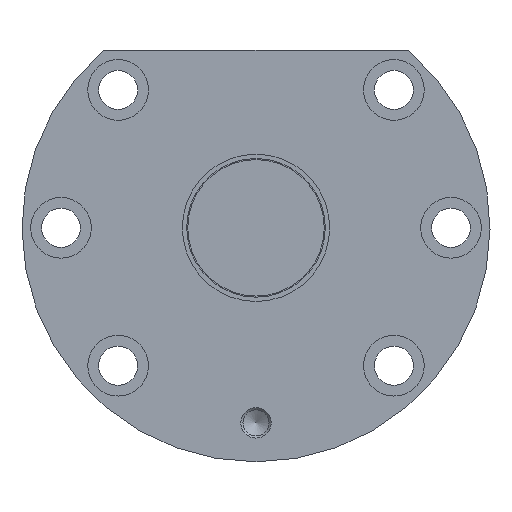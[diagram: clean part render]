
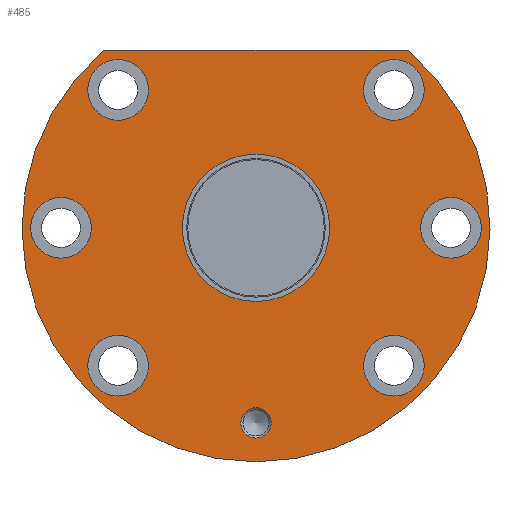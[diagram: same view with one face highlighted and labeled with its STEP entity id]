
A CAD part, left-side view. The second image highlights one B-rep face of the part: STEP entity #485.
In plain terms, the highlighted planar face has unit normal (-1, 0, 0).
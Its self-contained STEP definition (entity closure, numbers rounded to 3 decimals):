
#349=CARTESIAN_POINT('',(461.355,3.5,-45.0));
#350=VERTEX_POINT('',#349);
#351=CARTESIAN_POINT('',(461.355,0.,-45.0));
#352=DIRECTION('',(-1.0,0.0,0.0));
#353=DIRECTION('',(0.0,-1.0,0.0));
#354=AXIS2_PLACEMENT_3D('',#351,#352,#353);
#355=CIRCLE('',#354,3.5);
#356=EDGE_CURVE('',#350,#350,#355,.T.);
#381=CARTESIAN_POINT('',(461.355,27.,0.0));
#382=DIRECTION('',(-1.0,0.0,0.0));
#383=DIRECTION('',(0.0,0.0,1.0));
#384=AXIS2_PLACEMENT_3D('',#381,#382,#383);
#385=PLANE('',#384);
#386=CARTESIAN_POINT('',(461.355,35.143,41.));
#387=VERTEX_POINT('',#386);
#388=CARTESIAN_POINT('',(461.355,-35.143,41.));
#389=VERTEX_POINT('',#388);
#390=CARTESIAN_POINT('',(461.355,35.143,41.));
#391=DIRECTION('',(0.0,-1.0,0.0));
#392=VECTOR('',#391,70.285);
#393=LINE('',#390,#392);
#394=EDGE_CURVE('',#387,#389,#393,.T.);
#395=ORIENTED_EDGE('',*,*,#394,.F.);
#396=CARTESIAN_POINT('',(461.355,0.,0.0));
#397=DIRECTION('',(1.0,0.0,0.0));
#398=DIRECTION('',(0.0,1.0,0.0));
#399=AXIS2_PLACEMENT_3D('',#396,#397,#398);
#400=CIRCLE('',#399,54.0);
#401=EDGE_CURVE('',#389,#387,#400,.T.);
#402=ORIENTED_EDGE('',*,*,#401,.F.);
#403=EDGE_LOOP('',(#395,#402));
#404=FACE_OUTER_BOUND('',#403,.T.);
#405=CARTESIAN_POINT('',(461.355,17.,0.0));
#406=VERTEX_POINT('',#405);
#407=CARTESIAN_POINT('',(461.355,0.,0.0));
#408=DIRECTION('',(1.0,0.0,0.0));
#409=DIRECTION('',(0.0,1.0,0.0));
#410=AXIS2_PLACEMENT_3D('',#407,#408,#409);
#411=CIRCLE('',#410,17.);
#412=EDGE_CURVE('',#406,#406,#411,.T.);
#413=ORIENTED_EDGE('',*,*,#412,.T.);
#414=EDGE_LOOP('',(#413));
#415=FACE_BOUND('',#414,.T.);
#416=CARTESIAN_POINT('',(461.355,38.82,31.82));
#417=VERTEX_POINT('',#416);
#418=CARTESIAN_POINT('',(461.355,31.82,31.82));
#419=DIRECTION('',(1.0,0.0,0.0));
#420=DIRECTION('',(0.0,1.0,0.0));
#421=AXIS2_PLACEMENT_3D('',#418,#419,#420);
#422=CIRCLE('',#421,7.);
#423=EDGE_CURVE('',#417,#417,#422,.T.);
#424=ORIENTED_EDGE('',*,*,#423,.T.);
#425=EDGE_LOOP('',(#424));
#426=FACE_BOUND('',#425,.T.);
#427=CARTESIAN_POINT('',(461.355,38.82,-31.82));
#428=VERTEX_POINT('',#427);
#429=CARTESIAN_POINT('',(461.355,31.82,-31.82));
#430=DIRECTION('',(1.0,0.0,0.0));
#431=DIRECTION('',(0.0,1.0,0.0));
#432=AXIS2_PLACEMENT_3D('',#429,#430,#431);
#433=CIRCLE('',#432,7.);
#434=EDGE_CURVE('',#428,#428,#433,.T.);
#435=ORIENTED_EDGE('',*,*,#434,.T.);
#436=EDGE_LOOP('',(#435));
#437=FACE_BOUND('',#436,.T.);
#438=CARTESIAN_POINT('',(461.355,-38.0,0.0));
#439=VERTEX_POINT('',#438);
#440=CARTESIAN_POINT('',(461.355,-45.0,0.0));
#441=DIRECTION('',(1.0,0.0,0.0));
#442=DIRECTION('',(0.0,1.0,0.0));
#443=AXIS2_PLACEMENT_3D('',#440,#441,#442);
#444=CIRCLE('',#443,7.);
#445=EDGE_CURVE('',#439,#439,#444,.T.);
#446=ORIENTED_EDGE('',*,*,#445,.T.);
#447=EDGE_LOOP('',(#446));
#448=FACE_BOUND('',#447,.T.);
#449=CARTESIAN_POINT('',(461.355,-24.82,31.82));
#450=VERTEX_POINT('',#449);
#451=CARTESIAN_POINT('',(461.355,-31.82,31.82));
#452=DIRECTION('',(1.0,0.0,0.0));
#453=DIRECTION('',(0.0,1.0,0.0));
#454=AXIS2_PLACEMENT_3D('',#451,#452,#453);
#455=CIRCLE('',#454,7.);
#456=EDGE_CURVE('',#450,#450,#455,.T.);
#457=ORIENTED_EDGE('',*,*,#456,.T.);
#458=EDGE_LOOP('',(#457));
#459=FACE_BOUND('',#458,.T.);
#460=CARTESIAN_POINT('',(461.355,-24.82,-31.82));
#461=VERTEX_POINT('',#460);
#462=CARTESIAN_POINT('',(461.355,-31.82,-31.82));
#463=DIRECTION('',(1.0,0.0,0.0));
#464=DIRECTION('',(0.0,1.0,0.0));
#465=AXIS2_PLACEMENT_3D('',#462,#463,#464);
#466=CIRCLE('',#465,7.);
#467=EDGE_CURVE('',#461,#461,#466,.T.);
#468=ORIENTED_EDGE('',*,*,#467,.T.);
#469=EDGE_LOOP('',(#468));
#470=FACE_BOUND('',#469,.T.);
#471=CARTESIAN_POINT('',(461.355,52.0,0.0));
#472=VERTEX_POINT('',#471);
#473=CARTESIAN_POINT('',(461.355,45.0,0.0));
#474=DIRECTION('',(1.0,0.0,0.0));
#475=DIRECTION('',(0.0,1.0,0.0));
#476=AXIS2_PLACEMENT_3D('',#473,#474,#475);
#477=CIRCLE('',#476,7.);
#478=EDGE_CURVE('',#472,#472,#477,.T.);
#479=ORIENTED_EDGE('',*,*,#478,.T.);
#480=EDGE_LOOP('',(#479));
#481=FACE_BOUND('',#480,.T.);
#482=ORIENTED_EDGE('',*,*,#356,.F.);
#483=EDGE_LOOP('',(#482));
#484=FACE_BOUND('',#483,.T.);
#485=ADVANCED_FACE('',(#404,#415,#426,#437,#448,#459,#470,#481,#484),#385,.T.);
